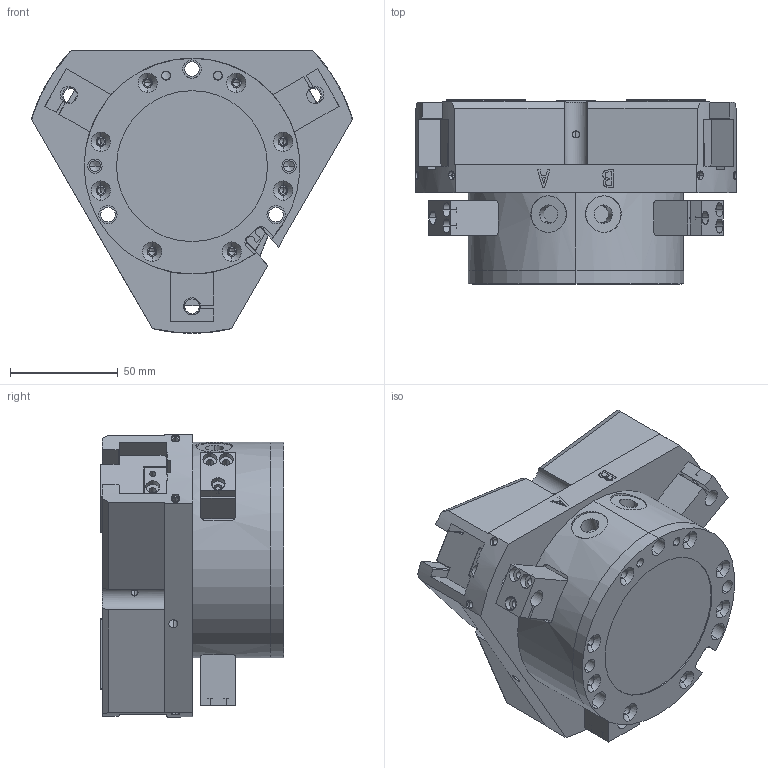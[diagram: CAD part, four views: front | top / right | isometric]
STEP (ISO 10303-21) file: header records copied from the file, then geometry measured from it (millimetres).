
FILE_DESCRIPTION (( 'STEP AP214' ), '1' );
FILE_NAME ('Z2207000-02 三爪气缸.STEP', '2022-10-08T05:17:11', ( 'User' ), ( 'China' ), 'SwSTEP 2.0', 'SolidWorks 2018', '' );
FILE_SCHEMA (( 'AUTOMOTIVE_DESIGN' ));
Length unit declared in the file: millimetre
Products named in the file (7): FCT100A-1-L; FCT100A-1-01-002-L; FPT-000-1-01-003-L; FPT-000-1-01-002-L; FCT100A-1-01-008-L; FCT100A-1-01-001-L; Z2207000-02 三爪气缸
Assembly tree (11 placements, depth 3):
  Z2207000-02 三爪气缸
    FCT100A-1-L
      FCT100A-1-01-001-L
      FCT100A-1-01-008-L  x3
      FPT-000-1-01-002-L  x2
      FPT-000-1-01-003-L  x3
      FCT100A-1-01-002-L
Bounding box: 148.74 x 85.3 x 130.99 mm (x, y, z)
Volume: 568100 mm3; surface area: 159629.3 mm2
Topology: 10 solids, 10 shells, 983 faces, 2574 edges, 1619 vertices
Faces by surface type: plane 480, cylinder 375, cone 120, bspline 8
Entity records: 30135 total; most frequent: CARTESIAN_POINT 5465, DIRECTION 3642, ORIENTED_EDGE 3488, EDGE_CURVE 1744, AXIS2_PLACEMENT_3D 1328, VERTEX_POINT 1135, LINE 986, VECTOR 986
